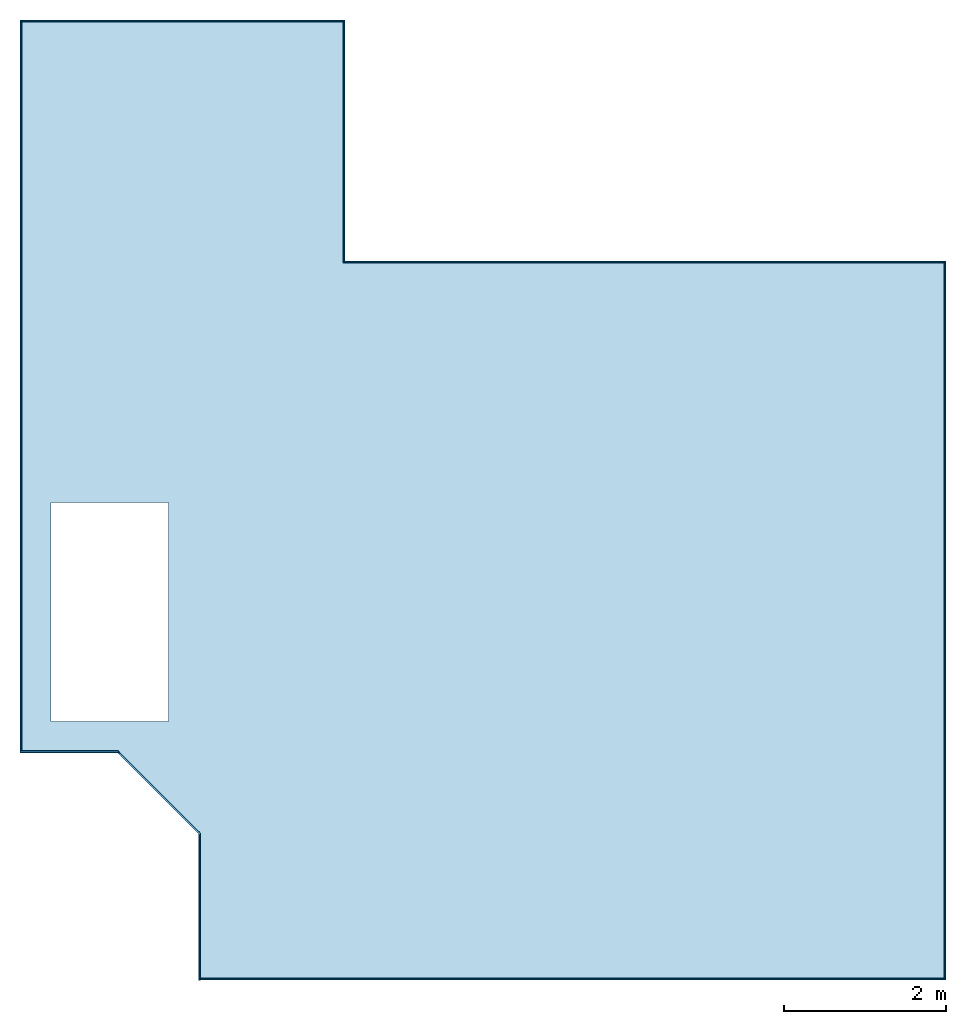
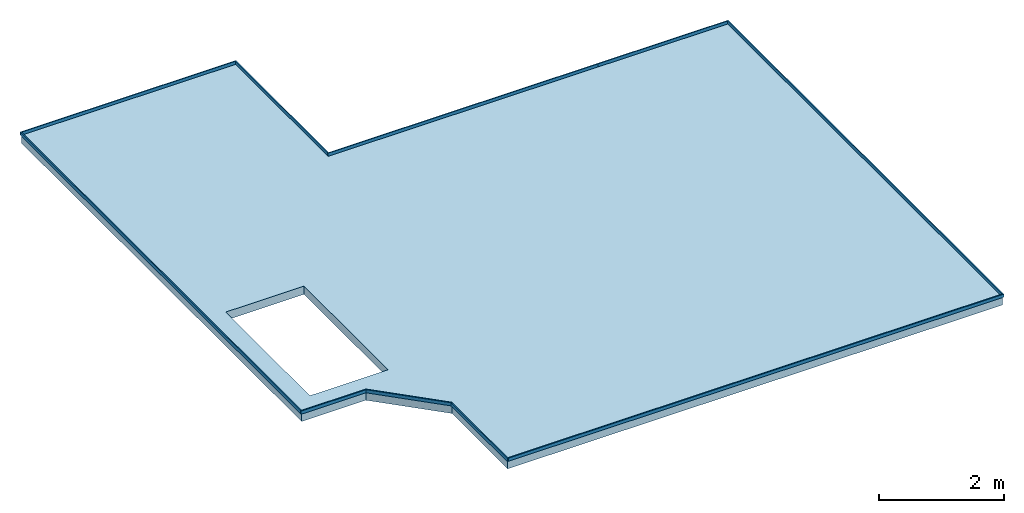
# One storey: 10 walls, 1 slab, 1 opening.
"""IFC2X3 building model written with IfcOpenShell, lengths in centimetres."""

from ifc_helpers import new_model, entity, si_unit, converted_unit, derived_unit, direction, frame, frame_2d, origin, origin_2d_with_axis, place, context, subcontext, project, spatial, polyline, rectangle, outline, extrude, clip, halfspace, material, layer, layer_set, layer_usage, type_object, element, save


model = new_model("IFC2X3")

# Units and contexts
model_context = context("Model", 3, precision=0.001, world=origin(), true_north=direction((6.12303176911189e-17, 1.0)))
body_context = subcontext(model_context, "Body", "Model", "MODEL_VIEW")
ifc_project = project(units=[si_unit("LENGTHUNIT", "METRE", prefix="CENTI"), si_unit("AREAUNIT", "SQUARE_METRE"), si_unit("VOLUMEUNIT", "CUBIC_METRE"), converted_unit("PLANEANGLEUNIT", "DEGREE", entity("IfcRatioMeasure", 0.0174532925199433), si_unit("PLANEANGLEUNIT", "RADIAN"), dimensions=[0, 0, 0, 0, 0, 0, 0]), si_unit("MASSUNIT", "GRAM", prefix="KILO"), derived_unit("MASSDENSITYUNIT", [(si_unit("MASSUNIT", "GRAM", prefix="KILO"), 1), (si_unit("LENGTHUNIT", "METRE"), -3)]), derived_unit("MOMENTOFINERTIAUNIT", [(si_unit("LENGTHUNIT", "METRE"), 4)]), si_unit("TIMEUNIT", "SECOND"), si_unit("FREQUENCYUNIT", "HERTZ"), si_unit("THERMODYNAMICTEMPERATUREUNIT", "DEGREE_CELSIUS"), derived_unit("THERMALTRANSMITTANCEUNIT", [(si_unit("MASSUNIT", "GRAM", prefix="KILO"), 1), (si_unit("THERMODYNAMICTEMPERATUREUNIT", "KELVIN"), -1), (si_unit("TIMEUNIT", "SECOND"), -3)]), derived_unit("VOLUMETRICFLOWRATEUNIT", [(si_unit("LENGTHUNIT", "METRE"), 3), (si_unit("TIMEUNIT", "SECOND"), -1)]), si_unit("ELECTRICCURRENTUNIT", "AMPERE"), si_unit("ELECTRICVOLTAGEUNIT", "VOLT"), si_unit("POWERUNIT", "WATT"), si_unit("FORCEUNIT", "NEWTON", prefix="KILO"), si_unit("ILLUMINANCEUNIT", "LUX"), si_unit("LUMINOUSFLUXUNIT", "LUMEN"), si_unit("LUMINOUSINTENSITYUNIT", "CANDELA"), derived_unit("USERDEFINED", [(si_unit("MASSUNIT", "GRAM", prefix="KILO"), -1), (si_unit("LENGTHUNIT", "METRE"), -2), (si_unit("TIMEUNIT", "SECOND"), 3), (si_unit("LUMINOUSFLUXUNIT", "LUMEN"), 1)]), derived_unit("LINEARVELOCITYUNIT", [(si_unit("LENGTHUNIT", "METRE"), 1), (si_unit("TIMEUNIT", "SECOND"), -1)]), si_unit("PRESSUREUNIT", "PASCAL"), derived_unit("USERDEFINED", [(si_unit("LENGTHUNIT", "METRE"), -2), (si_unit("MASSUNIT", "GRAM", prefix="KILO"), 1), (si_unit("TIMEUNIT", "SECOND"), -2)]), derived_unit("LINEARFORCEUNIT", [(si_unit("MASSUNIT", "GRAM", prefix="KILO"), 1), (si_unit("LENGTHUNIT", "METRE"), 1), (si_unit("TIMEUNIT", "SECOND"), -2), (si_unit("LENGTHUNIT", "METRE"), -1)]), derived_unit("PLANARFORCEUNIT", [(si_unit("MASSUNIT", "GRAM", prefix="KILO"), 1), (si_unit("LENGTHUNIT", "METRE"), 1), (si_unit("TIMEUNIT", "SECOND"), -2), (si_unit("LENGTHUNIT", "METRE"), -2)])], contexts=[model_context])

# Site, building, storey
site_placement = place(None, origin())
site = spatial("IfcSite", under=ifc_project, at=site_placement, Name="Surface", CompositionType="ELEMENT")
building_placement = place(site_placement, origin())
building = spatial("IfcBuilding", under=site, at=building_placement, CompositionType="ELEMENT")
storey_placement = place(building_placement, frame((0.0, 0.0, 257.0)))
storey = spatial("IfcBuildingStorey", under=building, at=storey_placement, Name="2.57_Dessus dalle", CompositionType="ELEMENT", Elevation=257.0)

# Slab, opening
ifc_material_1 = material(Name="Maçonnerie - Béton dalle")
ifc_layer_1 = layer(ifc_material_1, 16.0)
ifc_layer_set_1 = layer_set([ifc_layer_1], Name="Sol:Plancher 12+4")
ifc_layer_usage_1 = layer_usage(ifc_layer_set_1, "AXIS3", "POSITIVE", 0.0)
slab_type = type_object("IfcSlabType", Name="Sol:Plancher 12+4", PredefinedType="FLOOR", material=ifc_layer_set_1)
slab_placement = place(storey_placement, frame((-1788.17726031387, -159.007682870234, -16.0)))
slab = element("IfcSlab", 1, at=slab_placement, inside=storey, type_object=slab_type, material=ifc_layer_usage_1, Name="Sol:Plancher 12+4", ObjectType="Sol:Plancher 12+4", PredefinedType="FLOOR", context=body_context, shape_type="SweptSolid", body=[
    extrude(outline(polyline([(172.0, 589.0), (172.0, 292.0), (-568.0, 292.0), (-568.0, -589.0), (348.0, -589.0), (348.0, -410.171572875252), (449.171572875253, -309.0), (568.0, -309.0), (568.0, 589.0), (172.0, 589.0)])), frame((568.0, 589.0, 16.0), z_axis=(0.0, 0.0, -1.0), x_axis=(-1.0, 0.0, 0.0)), (0.0, 0.0, 1.0), 16.0),
])
opening_placement = place(slab_placement, frame((108.500000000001, 451.0, 16.0)))
element("IfcOpeningElement", 2, at=opening_placement, cuts=slab, Name="Sol:Plancher 12+4:2", ObjectType="Opening", context=body_context, shape_type="SweptSolid", body=[
    extrude(rectangle(XDim=270.000000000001, YDim=145.000000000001, at=origin_2d_with_axis()), frame((0.0, 0.0, 0.0), z_axis=(0.0, 0.0, -1.0), x_axis=(0.0, 1.0, 0.0)), (0.0, 0.0, 1.0), 16.0),
])

# Walls
ifc_material_2 = material(Name="Maçonnerie - Enduit")
ifc_layer_2 = layer(ifc_material_2, 2.0)
ifc_layer_set_2 = layer_set([ifc_layer_2], Name="Mur de base:Enduit 2")
ifc_layer_usage_2 = layer_usage(ifc_layer_set_2, "AXIS2", "POSITIVE", -1.0)
wall_type = type_object("IfcWallType", Name="Mur de base:Enduit 2", PredefinedType="STANDARD", material=ifc_layer_set_2)
wall_1_placement = place(storey_placement, frame((-1790.17726031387, 119.992317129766, 0.0)))
element("IfcWallStandardCase", 3, at=wall_1_placement, inside=storey, type_object=wall_type, material=ifc_layer_usage_2, Name="Mur de base:Enduit 2", ObjectType="Mur de base:Enduit 2", context=body_context, shape_type="Clipping", body=[
    clip(extrude(outline(polyline([(122.828427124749, -1.0), (120.828427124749, 1.0), (22.0, 1.0), (2.0, 1.0), (0.0, 1.0), (0.0, -1.0), (122.828427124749, -1.0)])), origin(), (0.0, 0.0, 1.0), 5.99999999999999), halfspace(frame((0.0, 0.0, -265.0)), True)),
])
ifc_layer_usage_3 = layer_usage(ifc_layer_set_2, "AXIS2", "POSITIVE", -1.0)
wall_2_placement = place(storey_placement, frame((-1671.47015353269, 121.699423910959, 0.0), z_axis=(0.0, 0.0, 1.0), x_axis=(0.707106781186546, -0.707106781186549, 0.0)))
element("IfcWallStandardCase", 4, at=wall_2_placement, inside=storey, type_object=wall_type, material=ifc_layer_usage_3, Name="Mur de base:Enduit 2", ObjectType="Mur de base:Enduit 2", context=body_context, shape_type="Clipping", body=[
    clip(extrude(outline(polyline([(147.078210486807, -1.0), (145.078210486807, 1.0), (2.0, 1.0), (0.0, -1.0), (147.078210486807, -1.0)])), origin(), (0.0, 0.0, 1.0), 5.99999999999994), halfspace(frame((0.0, 0.0, -265.0)), True)),
])
ifc_layer_usage_4 = layer_usage(ifc_layer_set_2, "AXIS2", "POSITIVE", -1.0)
wall_3_placement = place(storey_placement, frame((-1569.17726031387, 21.8207442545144, 0.0), z_axis=(0.0, 0.0, 1.0), x_axis=(0.0, -1.0, 0.0)))
element("IfcWallStandardCase", 5, at=wall_3_placement, inside=storey, type_object=wall_type, material=ifc_layer_usage_4, Name="Mur de base:Enduit 2", ObjectType="Mur de base:Enduit 2", context=body_context, shape_type="Clipping", body=[
    clip(extrude(outline(polyline([(182.828427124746, -1.0), (182.828427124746, 1.0), (180.828427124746, 1.0), (160.828427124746, 1.0), (2.0, 1.0), (0.0, -1.0), (182.828427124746, -1.0)])), origin(), (0.0, 0.0, 1.0), 5.99999999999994), halfspace(frame((0.0, 0.0, -265.0)), True)),
])
ifc_layer_usage_5 = layer_usage(ifc_layer_set_2, "AXIS2", "POSITIVE", -1.0)
wall_4_placement = place(storey_placement, frame((-1568.17726031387, -160.007682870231, 0.0)))
element("IfcWallStandardCase", 6, at=wall_4_placement, inside=storey, type_object=wall_type, material=ifc_layer_usage_5, Name="Mur de base:Enduit 2", ObjectType="Mur de base:Enduit 2", context=body_context, shape_type="Clipping", body=[
    clip(extrude(rectangle(XDim=918.0, YDim=1.99999999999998, at=frame_2d((459.0, 3.1641356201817e-15), x_axis=(-1.0, 0.0))), origin(), (0.0, 0.0, 1.0), 5.99999999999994), halfspace(frame((0.0, 0.0, -265.0)), True)),
])
ifc_layer_usage_6 = layer_usage(ifc_layer_set_2, "AXIS2", "POSITIVE", -1.0)
wall_5_placement = place(storey_placement, frame((-651.177260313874, -159.007682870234, 0.0), z_axis=(0.0, 0.0, 1.0), x_axis=(0.0, 1.0, 0.0)))
element("IfcWallStandardCase", 7, at=wall_5_placement, inside=storey, type_object=wall_type, material=ifc_layer_usage_6, Name="Mur de base:Enduit 2", ObjectType="Mur de base:Enduit 2", context=body_context, shape_type="Clipping", body=[
    clip(extrude(rectangle(XDim=882.999999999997, YDim=1.99999999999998, at=frame_2d((441.499999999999, 1.55431223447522e-15), x_axis=(-1.0, 0.0))), origin(), (0.0, 0.0, 1.0), 5.99999999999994), halfspace(frame((0.0, 0.0, -265.0)), True)),
])
ifc_layer_usage_7 = layer_usage(ifc_layer_set_2, "AXIS2", "POSITIVE", -1.0)
wall_6_placement = place(storey_placement, frame((-652.177260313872, 722.992317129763, 0.0), z_axis=(0.0, 0.0, 1.0), x_axis=(-1.0, 0.0, 0.0)))
element("IfcWallStandardCase", 8, at=wall_6_placement, inside=storey, type_object=wall_type, material=ifc_layer_usage_7, Name="Mur de base:Enduit 2", ObjectType="Mur de base:Enduit 2", context=body_context, shape_type="Clipping", body=[
    clip(extrude(rectangle(XDim=239.999999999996, YDim=1.99999999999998, at=frame_2d((119.999999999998, 7.27196081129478e-15), x_axis=(-1.0, 0.0))), origin(), (0.0, 0.0, 1.0), 5.99999999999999), halfspace(frame((0.0, 0.0, -265.0)), True)),
])
ifc_layer_usage_8 = layer_usage(ifc_layer_set_2, "AXIS2", "POSITIVE", -1.0)
wall_7_placement = place(storey_placement, frame((-1391.17726031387, 723.992317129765, 0.0), z_axis=(0.0, 0.0, 1.0), x_axis=(0.0, 1.0, 0.0)))
element("IfcWallStandardCase", 9, at=wall_7_placement, inside=storey, type_object=wall_type, material=ifc_layer_usage_8, Name="Mur de base:Enduit 2", ObjectType="Mur de base:Enduit 2", context=body_context, shape_type="Clipping", body=[
    clip(extrude(rectangle(XDim=297.0, YDim=1.99999999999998, at=frame_2d((148.5, 1.49880108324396e-15), x_axis=(-1.0, 0.0))), origin(), (0.0, 0.0, 1.0), 5.99999999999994), halfspace(frame((0.0, 0.0, -265.0)), True)),
])
ifc_layer_usage_9 = layer_usage(ifc_layer_set_2, "AXIS2", "POSITIVE", -1.0)
wall_8_placement = place(storey_placement, frame((-1392.17726031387, 1019.99231712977, 0.0), z_axis=(0.0, 0.0, 1.0), x_axis=(-1.0, 0.0, 0.0)))
element("IfcWallStandardCase", 10, at=wall_8_placement, inside=storey, type_object=wall_type, material=ifc_layer_usage_9, Name="Mur de base:Enduit 2", ObjectType="Mur de base:Enduit 2", context=body_context, shape_type="Clipping", body=[
    clip(extrude(rectangle(XDim=398.0, YDim=1.99999999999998, at=frame_2d((199.0, 3.27515792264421e-15), x_axis=(-1.0, 0.0))), origin(), (0.0, 0.0, 1.0), 5.99999999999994), halfspace(frame((0.0, 0.0, -265.0)), True)),
])
ifc_layer_usage_10 = layer_usage(ifc_layer_set_2, "AXIS2", "POSITIVE", -1.0)
wall_9_placement = place(storey_placement, frame((-1789.17726031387, 1018.99231712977, 0.0), z_axis=(0.0, 0.0, 1.0), x_axis=(0.0, -1.0, 0.0)))
element("IfcWallStandardCase", 11, at=wall_9_placement, inside=storey, type_object=wall_type, material=ifc_layer_usage_10, Name="Mur de base:Enduit 2", ObjectType="Mur de base:Enduit 2", context=body_context, shape_type="Clipping", body=[
    clip(extrude(rectangle(XDim=898.0, YDim=1.99999999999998, at=frame_2d((449.0, -1.72084568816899e-15), x_axis=(-1.0, 0.0))), origin(), (0.0, 0.0, 1.0), 5.99999999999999), halfspace(frame((0.0, 0.0, -265.0)), True)),
])
ifc_layer_usage_11 = layer_usage(ifc_layer_set_2, "AXIS2", "POSITIVE", -1.0)
wall_10_placement = place(storey_placement, frame((-882.177260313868, 722.992317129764, 0.0), z_axis=(0.0, 0.0, 1.0), x_axis=(-1.0, 0.0, 0.0)))
element("IfcWallStandardCase", 12, at=wall_10_placement, inside=storey, type_object=wall_type, material=ifc_layer_usage_11, Name="Mur de base:Enduit 2", ObjectType="Mur de base:Enduit 2", context=body_context, shape_type="Clipping", body=[
    clip(extrude(rectangle(XDim=500.000000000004, YDim=1.99999999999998, at=frame_2d((260.000000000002, 2.48134846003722e-14), x_axis=(-1.0, 0.0))), origin(), (0.0, 0.0, 1.0), 5.99999999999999), halfspace(frame((0.0, 0.0, -265.0)), True)),
])

save(model, "model.ifc")
